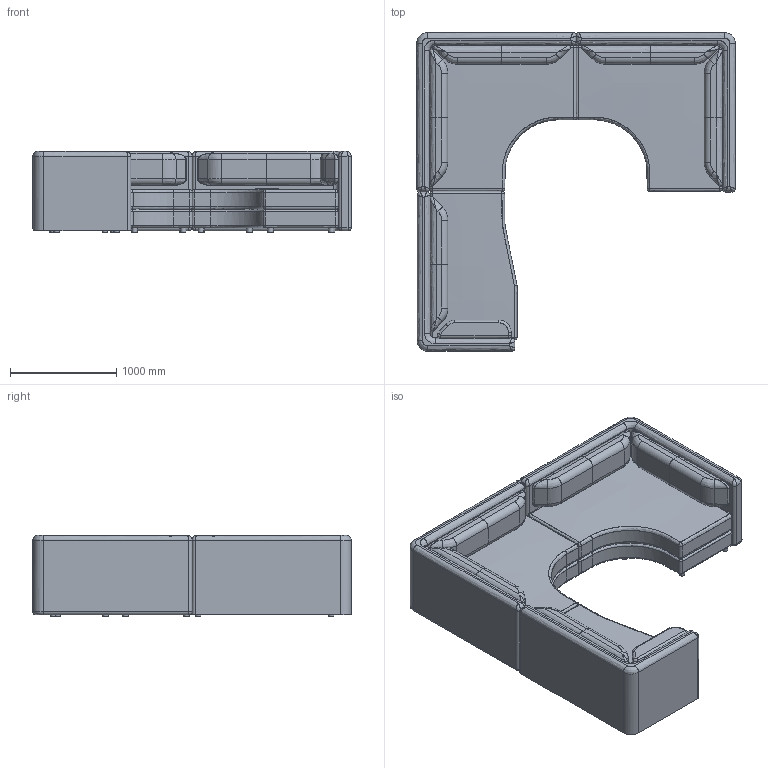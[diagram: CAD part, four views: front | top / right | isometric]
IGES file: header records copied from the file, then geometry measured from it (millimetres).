
Global section: file name: C:\Users\market02\Desktop\RYAN\VIRGULE\compo7\COMPO7.igs; native system: Rhinoceros ( Dec 14 2021 ); preprocessor: Trout Lake IGES 012 Dec 14 2021; date: 220919.082145; units: millimetre
Bounding box: 2999.95 x 2999.99 x 767.38 mm (x, y, z)
Surface area: 41027916.6 mm2 (no closed solid volume)
Topology: 0 solids, 0 shells, 550 faces, 4240 edges, 4190 vertices
Faces by surface type: bspline 550
